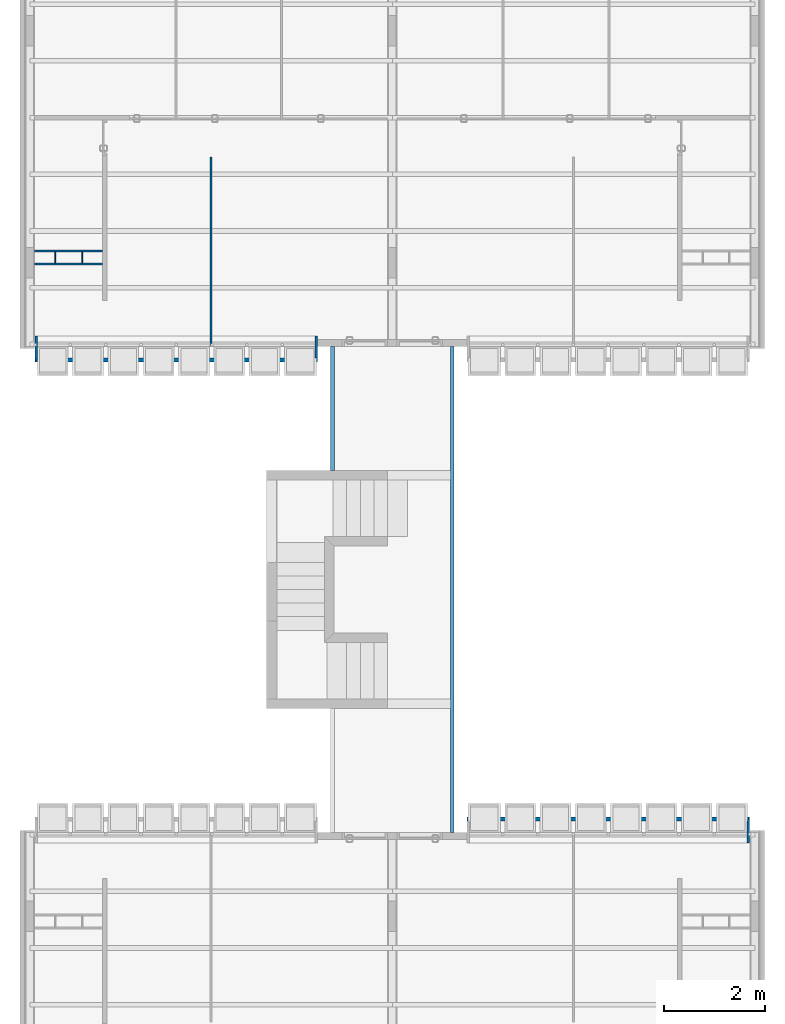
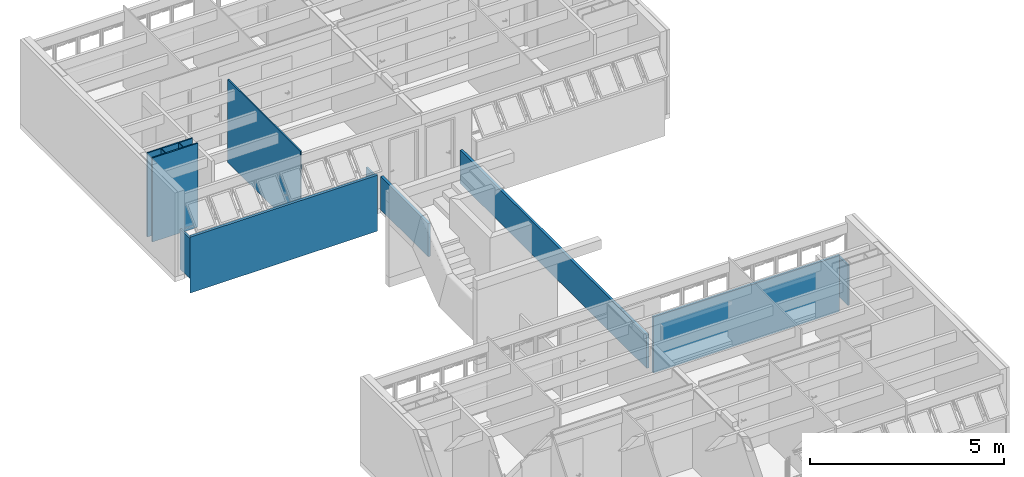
# One storey, part 16 of 37: 12 walls.
"""IFC2X3 building model written with IfcOpenShell, lengths in millimetres."""

from ifc_helpers import new_model, entity, si_unit, converted_unit, derived_unit, money_unit, direction, frame, origin_with_axes, place, context, subcontext, project, spatial, polyline, outline, extrude, material, layer, layer_set, layer_usage, type_object, element, save


model = new_model("IFC2X3")

# Units and contexts
model_context = context("Model", 3, precision=0.01, world=origin_with_axes(), true_north=direction((0.0, 1.0)))
body_context = subcontext(model_context, "Body", "Model", "MODEL_VIEW")
ifc_project = project(units=[si_unit("LENGTHUNIT", "METRE", prefix="MILLI"), si_unit("AREAUNIT", "SQUARE_METRE"), si_unit("VOLUMEUNIT", "CUBIC_METRE"), converted_unit("PLANEANGLEUNIT", "DEGREE", entity("IfcPlaneAngleMeasure", 0.0174532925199), si_unit("PLANEANGLEUNIT", "RADIAN"), dimensions=[0, 0, 0, 0, 0, 0, 0]), money_unit("USD"), converted_unit("TIMEUNIT", "Year", entity("IfcTimeMeasure", 31556926.0), si_unit("TIMEUNIT", "SECOND"), dimensions=[0, 0, 1, 0, 0, 0, 0]), si_unit("MASSUNIT", "GRAM", prefix="KILO"), si_unit("THERMODYNAMICTEMPERATUREUNIT", "DEGREE_CELSIUS"), si_unit("LUMINOUSINTENSITYUNIT", "LUMEN"), si_unit("ENERGYUNIT", "JOULE", prefix="MEGA"), derived_unit("THERMALCONDUCTANCEUNIT", [(si_unit("POWERUNIT", "WATT"), 1), (si_unit("LENGTHUNIT", "METRE"), -1), (si_unit("THERMODYNAMICTEMPERATUREUNIT", "KELVIN"), -1)]), derived_unit("SPECIFICHEATCAPACITYUNIT", [(si_unit("ENERGYUNIT", "JOULE"), 1), (si_unit("MASSUNIT", "GRAM", prefix="KILO"), -1), (si_unit("THERMODYNAMICTEMPERATUREUNIT", "KELVIN"), -1)]), derived_unit("MASSDENSITYUNIT", [(si_unit("MASSUNIT", "GRAM", prefix="KILO"), 1), (si_unit("VOLUMEUNIT", "CUBIC_METRE"), -1)])], contexts=[model_context])

# Site, building, storey
site_placement = place(None, origin_with_axes())
site = spatial("IfcSite", under=ifc_project, at=site_placement, Name="Local", CompositionType="ELEMENT")
building_placement = place(site_placement, origin_with_axes())
building = spatial("IfcBuilding", under=site, at=building_placement, Name="Construção", CompositionType="ELEMENT")
storey_placement = place(building_placement, origin_with_axes())
storey = spatial("IfcBuildingStorey", under=building, at=storey_placement, Name="Primeiro Pavimento", CompositionType="ELEMENT", Elevation=0.0)

# Walls
ifc_material_1 = material(Name="GENÉRICO - VEDAÇÃO EXTERNA")
ifc_layer_1 = layer(ifc_material_1, 40.0, ventilated="UNKNOWN")
ifc_layer_set_1 = layer_set([ifc_layer_1], Name="GENÉRICO - VEDAÇÃO EXTERNA 40")
ifc_layer_usage_1 = layer_usage(ifc_layer_set_1, "AXIS2", "POSITIVE", -40.0)
wall_type_1 = type_object("IfcWallType", Name="GENÉRICO - VEDAÇÃO EXTERNA 40", PredefinedType="NOTDEFINED")
wall_1_placement = place(storey_placement, frame((3810.0, 21655.0, 0.0), z_axis=(0.0, 0.0, 1.0), x_axis=(0.0, -1.0, 0.0)))
element("IfcWallStandardCase", 1, at=wall_1_placement, inside=storey, type_object=wall_type_1, material=ifc_layer_usage_1, Name="APTO3-PAREDE-003", context=body_context, shape_type="SweptSolid", body=[
    extrude(outline(polyline([(0.0, -40.0), (3750.0, -40.0), (3750.0, 0.0), (0.0, 0.0), (0.0, -40.0)])), origin_with_axes(), (0.0, 0.0, 1.0), 2620.0),
])
ifc_layer_usage_2 = layer_usage(ifc_layer_set_1, "AXIS2", "POSITIVE", -40.0)
wall_2_placement = place(storey_placement, frame((290.0, 19815.0, 0.0), z_axis=(0.0, 0.0, 1.0), x_axis=(1.0, 0.0, 0.0)))
element("IfcWallStandardCase", 2, at=wall_2_placement, inside=storey, type_object=wall_type_1, material=ifc_layer_usage_2, Name="APTO3-PAREDE-011", context=body_context, shape_type="SweptSolid", body=[
    extrude(outline(polyline([(0.0, -40.0), (1350.0, -40.0), (1350.0, 0.0), (0.0, 0.0), (0.0, -40.0)])), origin_with_axes(), (0.0, 0.0, 1.0), 2650.0),
])
ifc_layer_usage_3 = layer_usage(ifc_layer_set_1, "AXIS2", "POSITIVE", -40.0)
wall_3_placement = place(storey_placement, frame((1730.0, 19515.0, 0.0), z_axis=(0.0, 0.0, 1.0), x_axis=(-1.0, 0.0, 0.0)))
element("IfcWallStandardCase", 3, at=wall_3_placement, inside=storey, type_object=wall_type_1, material=ifc_layer_usage_3, Name="APTO3-PAREDE-010", context=body_context, shape_type="SweptSolid", body=[
    extrude(outline(polyline([(90.0, -40.0), (1440.0, -40.0), (1440.0, 0.0), (90.0, 0.0), (90.0, -40.0)])), origin_with_axes(), (0.0, 0.0, 1.0), 2650.0),
])
ifc_material_2 = material(Name="Concreto Armado Moldado in Loco - Estrutural")
ifc_layer_2 = layer(ifc_material_2, 50.0, ventilated="UNKNOWN")
ifc_layer_set_2 = layer_set([ifc_layer_2], Name="Concreto Armado Moldado in Loco - Estrutural 50")
ifc_layer_usage_4 = layer_usage(ifc_layer_set_2, "AXIS2", "NEGATIVE", 50.0)
wall_type_2 = type_object("IfcWallType", Name="Concreto Armado Moldado in Loco - Estrutural 50", PredefinedType="NOTDEFINED")
wall_4_placement = place(storey_placement, frame((14470.0, 8054.99999866, 0.0), z_axis=(0.0, 0.0, 1.0), x_axis=(0.0, 1.0, 0.0)))
element("IfcWallStandardCase", 4, at=wall_4_placement, inside=storey, type_object=wall_type_2, material=ifc_layer_usage_4, Name="APTO2-PAREDE-018", context=body_context, shape_type="SweptSolid", body=[
    extrude(outline(polyline([(0.0, 0.0), (510.0, 0.0), (430.0, 50.0), (0.0, 50.0), (0.0, 0.0)])), origin_with_axes(), (0.0, 0.0, 1.0), 1270.0),
])
ifc_layer_usage_5 = layer_usage(ifc_layer_set_2, "AXIS2", "NEGATIVE", 50.0)
wall_5_placement = place(storey_placement, frame((5850.0, 18105.0000013, 0.0), z_axis=(0.0, 0.0, 1.0), x_axis=(0.0, -1.0, 0.0)))
element("IfcWallStandardCase", 5, at=wall_5_placement, inside=storey, type_object=wall_type_2, material=ifc_layer_usage_5, Name="APTO3-PAREDE-016", context=body_context, shape_type="SweptSolid", body=[
    extrude(outline(polyline([(0.0, 0.0), (435.0, 0.0), (435.0, 50.0), (0.0, 50.0), (0.0, 0.0)])), origin_with_axes(), (0.0, 0.0, 1.0), 1270.0),
])
ifc_layer_usage_6 = layer_usage(ifc_layer_set_2, "AXIS2", "NEGATIVE", 50.0)
wall_6_placement = place(storey_placement, frame((300.0, 18105.0000013, 0.0), z_axis=(0.0, 0.0, 1.0), x_axis=(0.0, -1.0, 0.0)))
element("IfcWallStandardCase", 6, at=wall_6_placement, inside=storey, type_object=wall_type_2, material=ifc_layer_usage_6, Name="APTO3-PAREDE-018", context=body_context, shape_type="SweptSolid", body=[
    extrude(outline(polyline([(0.0, 0.0), (510.0, 0.0), (430.0, 50.0), (0.0, 50.0), (0.0, 0.0)])), origin_with_axes(), (0.0, 0.0, 1.0), 1270.0),
])
ifc_layer_3 = layer(ifc_material_1, 20.0, ventilated="UNKNOWN")
ifc_layer_set_3 = layer_set([ifc_layer_3], Name="GENÉRICO - VEDAÇÃO EXTERNA 20")
ifc_layer_usage_7 = layer_usage(ifc_layer_set_3, "AXIS2", "POSITIVE", -20.0)
wall_type_3 = type_object("IfcWallType", Name="GENÉRICO - VEDAÇÃO EXTERNA 20", PredefinedType="NOTDEFINED")
wall_7_placement = place(storey_placement, frame((710.0, 19815.0, 0.0), z_axis=(0.0, 0.0, 1.0), x_axis=(0.0, -1.0, 0.0)))
element("IfcWallStandardCase", 7, at=wall_7_placement, inside=storey, type_object=wall_type_3, material=ifc_layer_usage_7, Name="APTO3-PAREDE-009", context=body_context, shape_type="SweptSolid", body=[
    extrude(outline(polyline([(40.0, -20.0), (260.0, -20.0), (260.0, 0.0), (40.0, 0.0), (40.0, -20.0)])), origin_with_axes(), (0.0, 0.0, 1.0), 2650.0),
])
ifc_layer_usage_8 = layer_usage(ifc_layer_set_3, "AXIS2", "POSITIVE", 0.0)
wall_8_placement = place(storey_placement, frame((1240.0, 19515.0, 0.0), z_axis=(0.0, 0.0, 1.0), x_axis=(0.0, 1.0, 0.0)))
element("IfcWallStandardCase", 8, at=wall_8_placement, inside=storey, type_object=wall_type_3, material=ifc_layer_usage_8, Name="APTO3-PAREDE-008", context=body_context, shape_type="SweptSolid", body=[
    extrude(outline(polyline([(40.0, 0.0), (260.0, 0.0), (260.0, 20.0), (40.0, 20.0), (40.0, 0.0)])), origin_with_axes(), (0.0, 0.0, 1.0), 2650.0),
])
ifc_layer_4 = layer(ifc_material_1, 75.0, ventilated="UNKNOWN")
ifc_layer_set_4 = layer_set([ifc_layer_4], Name="GENÉRICO - VEDAÇÃO EXTERNA 75")
ifc_layer_usage_9 = layer_usage(ifc_layer_set_4, "AXIS2", "NEGATIVE", 0.0)
wall_type_4 = type_object("IfcWallType", Name="GENÉRICO - VEDAÇÃO EXTERNA 75", PredefinedType="NOTDEFINED")
wall_9_placement = place(storey_placement, frame((8610.0, 17895.0, -50.0), z_axis=(0.0, 0.0, 1.0), x_axis=(0.0, -1.0, 0.0)))
element("IfcWallStandardCase", 9, at=wall_9_placement, inside=storey, type_object=wall_type_4, material=ifc_layer_usage_9, Name="CIRC1-PAREDE-027", context=body_context, shape_type="SweptSolid", body=[
    extrude(outline(polyline([(0.0, -75.0), (9630.00000134, -75.0), (9630.00000134, 0.0), (0.0, 0.0), (0.0, -75.0)])), origin_with_axes(), (0.0, 0.0, 1.0), 1050.0),
])
ifc_layer_usage_10 = layer_usage(ifc_layer_set_4, "AXIS2", "NEGATIVE", 0.0)
wall_10_placement = place(storey_placement, frame((6160.0, 15440.0, -50.0), z_axis=(0.0, 0.0, 1.0), x_axis=(0.0, 1.0, 0.0)))
element("IfcWallStandardCase", 10, at=wall_10_placement, inside=storey, type_object=wall_type_4, material=ifc_layer_usage_10, Name="CIRC1-PAREDE-028", context=body_context, shape_type="SweptSolid", body=[
    extrude(outline(polyline([(0.0, -75.0), (2455.0, -75.0), (2455.0, 0.0), (0.0, 0.0), (0.0, -75.0)])), origin_with_axes(), (0.0, 0.0, 1.0), 1050.0),
])
ifc_layer_5 = layer(ifc_material_2, 80.0, ventilated="UNKNOWN")
ifc_layer_set_5 = layer_set([ifc_layer_5], Name="Concreto Armado Moldado in Loco - Estrutural 80")
ifc_layer_usage_11 = layer_usage(ifc_layer_set_5, "AXIS2", "POSITIVE", -80.0)
wall_type_5 = type_object("IfcWallType", Name="Concreto Armado Moldado in Loco - Estrutural 80", PredefinedType="NOTDEFINED")
wall_11_placement = place(storey_placement, frame((14470.0, 8484.99999866, -450.0), z_axis=(0.0, 0.0, 1.0), x_axis=(-1.0, 0.0, 0.0)))
element("IfcWallStandardCase", 11, at=wall_11_placement, inside=storey, type_object=wall_type_5, material=ifc_layer_usage_11, Name="APTO2-PAREDE-017", context=body_context, shape_type="SweptSolid", body=[
    extrude(outline(polyline([(0.0, -80.0), (5600.0, -80.0), (5600.0, 0.0), (50.0, 0.0), (0.0, -80.0)])), origin_with_axes(), (0.0, 0.0, 1.0), 1765.0),
])
ifc_layer_usage_12 = layer_usage(ifc_layer_set_5, "AXIS2", "POSITIVE", -80.0)
wall_12_placement = place(storey_placement, frame((300.0, 17675.0000013, -450.0), z_axis=(0.0, 0.0, 1.0), x_axis=(1.0, 0.0, 0.0)))
element("IfcWallStandardCase", 12, at=wall_12_placement, inside=storey, type_object=wall_type_5, material=ifc_layer_usage_12, Name="APTO3-PAREDE-017", context=body_context, shape_type="SweptSolid", body=[
    extrude(outline(polyline([(0.0, -80.0), (5600.0, -80.0), (5600.0, 0.0), (50.0, 0.0), (0.0, -80.0)])), origin_with_axes(), (0.0, 0.0, 1.0), 1765.0),
])

save(model, "model.ifc")
